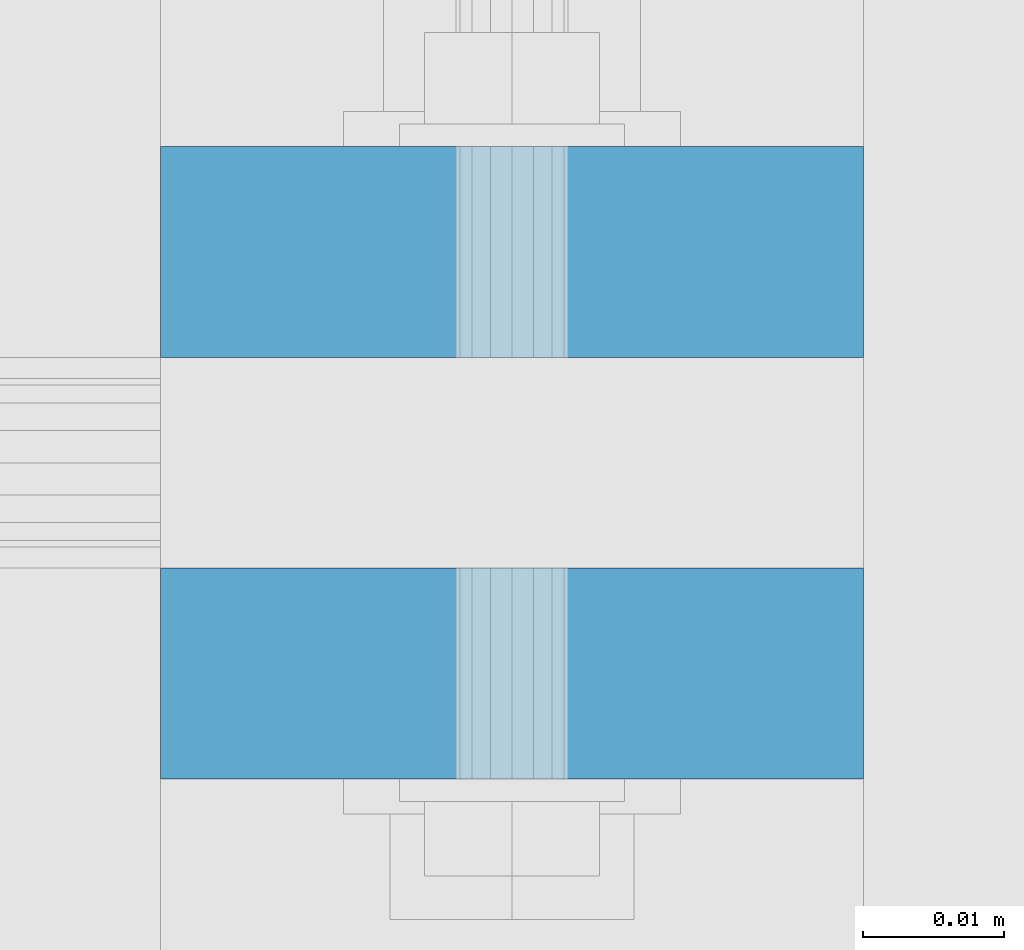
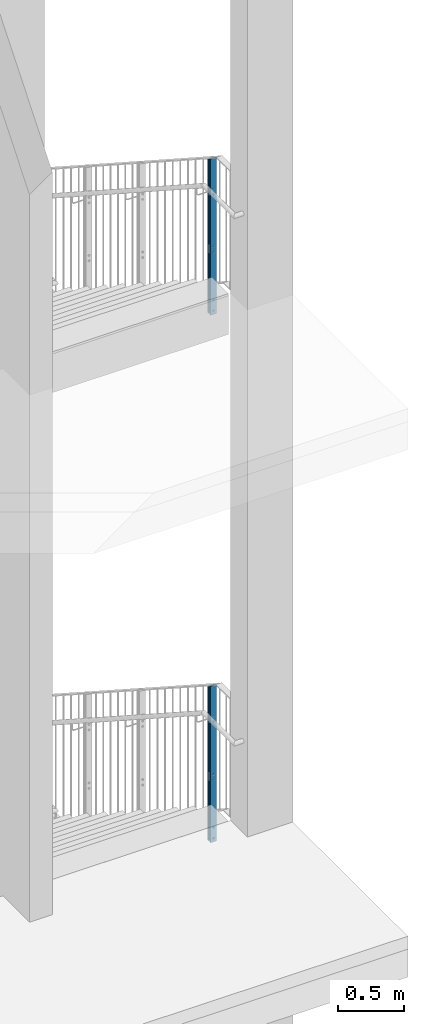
# One storey, part 27 of 296: 4 columns, 24 openings.
"""IFC2X3 building model written with IfcOpenShell, lengths in millimetres."""

import ifcopenshell
import ifcopenshell.guid

model = None  # the IFC model being written
_history = None  # IfcOwnerHistory: only IFC2X3 demands one
_inside = {}  # id of a spatial element -> (the spatial element, [elements in it])
_under = {}  # id of a project, library or spatial element -> (it, [spatial elements below it])
_declared = {}  # id of a project -> (the project, [libraries it declares])
_typed = {}  # id of a type object -> (the type object, [elements of that type])
_made_of = {}  # id of a material, layer set ... -> (it, [elements and type objects made of it])


def new_model(schema):
    """Start an empty IFC model of exactly this schema.

    Asked for "IFC4X3", IfcOpenShell would pick the latest addendum, in which some entities
    have other attributes; the version numbers below select the first issue.
    IFC2X3 requires an IfcOwnerHistory on every rooted entity: one is made here for all.
    """
    global model, _history
    if schema == "IFC4X3":
        model = ifcopenshell.file(schema_version=(4, 3, 0, 0))
    else:
        model = ifcopenshell.file(schema=schema)
    _inside.clear()
    _under.clear()
    _declared.clear()
    _typed.clear()
    _made_of.clear()
    _history = None
    if model.schema == "IFC2X3":
        org = make("IfcOrganization", Name="unknown")
        user = make(
            "IfcPersonAndOrganization",
            ThePerson=make("IfcPerson", FamilyName="unknown"),
            TheOrganization=org,
        )
        app = make(
            "IfcApplication",
            ApplicationDeveloper=org,
            Version="unknown",
            ApplicationFullName="unknown",
            ApplicationIdentifier="unknown",
        )
        _history = make(
            "IfcOwnerHistory",
            OwningUser=user,
            OwningApplication=app,
            ChangeAction="ADDED",
            CreationDate=0,
        )
    return model


def make(cls, **values):
    """One entity of the class cls with the attributes given. An attribute that is None is left unset."""
    return model.create_entity(
        cls, **{name: value for name, value in values.items() if value is not None}
    )


def entity(cls, *values):
    """Any entity or typed value of the class cls, its attributes in the order of the schema. None: left unset."""
    e = model.create_entity(cls)
    for i, value in enumerate(values):
        if value is not None:
            e[i] = value
    return e


def rooted(cls, **values):
    """An entity with a GlobalId (a new one), such as an element, a storey or a relation."""
    return make(cls, GlobalId=ifcopenshell.guid.new(), OwnerHistory=_history, **values)


def si_unit(unit_type, name, prefix=None):
    """IfcSIUnit, for example si_unit("LENGTHUNIT", "METRE", prefix="MILLI")."""
    return make("IfcSIUnit", UnitType=unit_type, Prefix=prefix, Name=name)


def converted_unit(unit_type, name, factor, base, dimensions=None, offset=None):
    """IfcConversionBasedUnit, such as the inch: factor (a typed value) times the base unit."""
    return make(
        "IfcConversionBasedUnit"
        if offset is None
        else "IfcConversionBasedUnitWithOffset",
        ConversionOffset=offset,
        Dimensions=None
        if dimensions is None
        else entity("IfcDimensionalExponents", *dimensions),
        UnitType=unit_type,
        Name=name,
        ConversionFactor=make(
            "IfcMeasureWithUnit", ValueComponent=factor, UnitComponent=base
        ),
    )


def assignment(units):
    """IfcUnitAssignment: the units of a project."""
    return None if units is None else make("IfcUnitAssignment", Units=units)


def point(xyz):
    """IfcCartesianPoint."""
    return None if xyz is None else make("IfcCartesianPoint", Coordinates=xyz)


def direction(xyz):
    """IfcDirection."""
    return None if xyz is None else make("IfcDirection", DirectionRatios=xyz)


def frame(location, z_axis=None, x_axis=None):
    """IfcAxis2Placement3D, a coordinate frame: its origin and axes. An axis left out is left unset."""
    return make(
        "IfcAxis2Placement3D",
        Location=point(location),
        Axis=direction(z_axis),
        RefDirection=direction(x_axis),
    )


def frame_2d(location, x_axis=None):
    """IfcAxis2Placement2D, a coordinate frame in the plane: its origin and x axis."""
    return make(
        "IfcAxis2Placement2D", Location=point(location), RefDirection=direction(x_axis)
    )


def origin():
    """The frame at (0, 0, 0) with its axes left unset."""
    return frame((0.0, 0.0, 0.0))


def origin_with_axes():
    """The frame at (0, 0, 0) with the z axis (0, 0, 1) and the x axis (1, 0, 0) written out."""
    return frame((0.0, 0.0, 0.0), z_axis=(0.0, 0.0, 1.0), x_axis=(1.0, 0.0, 0.0))


def origin_2d():
    """The frame at (0, 0) in the plane with its x axis left unset."""
    return frame_2d((0.0, 0.0))


def place(relative_to, where):
    """IfcLocalPlacement: puts the frame where relative to a parent placement (None: the world)."""
    return make(
        "IfcLocalPlacement", PlacementRelTo=relative_to, RelativePlacement=where
    )


def context(
    kind, dimensions, precision=None, world=None, true_north=None, identifier=None
):
    """IfcGeometricRepresentationContext, for example the 3D "Model" context."""
    return make(
        "IfcGeometricRepresentationContext",
        ContextIdentifier=identifier,
        ContextType=kind,
        CoordinateSpaceDimension=dimensions,
        Precision=precision,
        WorldCoordinateSystem=world,
        TrueNorth=true_north,
    )


def project(units=None, contexts=None):
    """IfcProject with its units and contexts."""
    return rooted(
        "IfcProject",
        Name="project",
        RepresentationContexts=contexts,
        UnitsInContext=assignment(units),
    )


def spatial(cls, under=None, at=None, **own):
    """A site, building, storey or space (cls), placed at a placement, below another one or the project."""
    s = rooted(cls, ObjectPlacement=at, **own)
    if under is not None:
        _under.setdefault(under.id(), (under, []))[1].append(s)
    return s


def profile(cls, at=None, kind="AREA", **sizes):
    """A parametric profile (cls). Its sizes go by their IFC names, for example OverallWidth=200.0."""
    return make(cls, ProfileType=kind, Position=at, **sizes)


def rectangle(**sizes):
    """IfcRectangleProfileDef."""
    return profile("IfcRectangleProfileDef", **sizes)


def circle(**sizes):
    """IfcCircleProfileDef."""
    return profile("IfcCircleProfileDef", **sizes)


def extrude(swept, where, along, depth):
    """IfcExtrudedAreaSolid: the profile swept, set in the frame where, extruded along a direction by depth."""
    return make(
        "IfcExtrudedAreaSolid",
        SweptArea=swept,
        Position=where,
        ExtrudedDirection=direction(along),
        Depth=depth,
    )


def clip(a, b, op="DIFFERENCE"):
    """IfcBooleanClippingResult: the solid a cut by the half space b."""
    return make(
        "IfcBooleanClippingResult", Operator=op, FirstOperand=a, SecondOperand=b
    )


def halfspace(plane, agree):
    """IfcHalfSpaceSolid: all space on one side of the plane z = 0 of the frame plane."""
    return make(
        "IfcHalfSpaceSolid",
        BaseSurface=make("IfcPlane", Position=plane),
        AgreementFlag=agree,
    )


def shape(context_of_items, identifier, shape_type, items):
    """IfcShapeRepresentation: the items that make up one representation, for example the "Body"."""
    return make(
        "IfcShapeRepresentation",
        ContextOfItems=context_of_items,
        RepresentationIdentifier=identifier,
        RepresentationType=shape_type,
        Items=items,
    )


def material(Name=None, Category=None):
    """IfcMaterial."""
    return make("IfcMaterial", Name=Name, Category=Category)


def made_of(thing, what):
    """Note that an element or type object is made of a material, layer set ...; save() writes the relation."""
    if what is not None:
        _made_of.setdefault(what.id(), (what, []))[1].append(thing)
    return thing


def element(
    cls,
    number,
    at=None,
    inside=None,
    cuts=None,
    type_object=None,
    material=None,
    context=None,
    identifier="Body",
    shape_type=None,
    held_by="IfcProductDefinitionShape",
    body=None,
    shapes=None,
    **own,
):
    """One element of the class cls, such as IfcWall. Its Tag is "e" and its number.

    at: its placement. inside: the storey or other place that contains it. cuts: it is an
    opening in that element (IfcRelVoidsElement). A single representation is given by context,
    identifier, shape_type and body (its items); several are given by shapes. held_by: the class
    of the entity that holds the representations. save() writes the other relations.
    """
    e = rooted(cls, Tag="e%d" % number, ObjectPlacement=at, **own)
    if body is not None:
        shapes = [shape(context, identifier, shape_type, body)]
    if shapes is not None:
        e.Representation = make(held_by, Representations=shapes)
    if inside is not None:
        _inside.setdefault(inside.id(), (inside, []))[1].append(e)
    if cuts is not None:
        rooted(
            "IfcRelVoidsElement", RelatingBuildingElement=cuts, RelatedOpeningElement=e
        )
    if type_object is not None:
        _typed.setdefault(type_object.id(), (type_object, []))[1].append(e)
    return made_of(e, material)


def aggregate(whole, parts):
    """IfcRelAggregates: a whole, such as a stair, and the parts it consists of."""
    return rooted("IfcRelAggregates", RelatingObject=whole, RelatedObjects=parts)


def save(model, path):
    """Write the relations noted so far, then the file.

    IfcRelAggregates (storeys below a building ...), IfcRelContainedInSpatialStructure (elements
    in a storey), IfcRelDefinesByType, IfcRelAssociatesMaterial and IfcRelDeclares: one each for
    every whole, place, type object, material and project.
    """
    for whole, parts in _under.values():
        aggregate(whole, parts)
    for where, things in _inside.values():
        rooted(
            "IfcRelContainedInSpatialStructure",
            RelatedElements=things,
            RelatingStructure=where,
        )
    for kind, things in _typed.values():
        rooted("IfcRelDefinesByType", RelatedObjects=things, RelatingType=kind)
    for what, things in _made_of.values():
        rooted("IfcRelAssociatesMaterial", RelatedObjects=things, RelatingMaterial=what)
    for by, libraries in _declared.values():
        rooted("IfcRelDeclares", RelatingContext=by, RelatedDefinitions=libraries)
    model.write(path)


model = new_model("IFC2X3")

# Units and contexts
model_context = context("Model", 3, precision=1e-09, world=origin_with_axes())
ifc_project = project(units=[si_unit("LENGTHUNIT", "METRE", prefix="MILLI"), si_unit("AREAUNIT", "SQUARE_METRE"), si_unit("VOLUMEUNIT", "CUBIC_METRE"), converted_unit("PLANEANGLEUNIT", "DEGREE", entity("IfcPlaneAngleMeasure", 0.01745329), si_unit("PLANEANGLEUNIT", "RADIAN"), dimensions=[0, 0, 0, 0, 0, 0, 0])], contexts=[model_context])

# Site, building, storey
site_placement = place(None, origin_with_axes())
site = spatial("IfcSite", under=ifc_project, at=site_placement, Name="TZD-S?d | Treppenhausgel?nder", CompositionType="ELEMENT")
building_placement = place(site_placement, origin_with_axes())
building = spatial("IfcBuilding", under=site, at=building_placement, Name="Struktur 1", CompositionType="ELEMENT")
storey_placement = place(building_placement, origin_with_axes())
storey = spatial("IfcBuildingStorey", under=building, at=storey_placement, Name="Default Storey", CompositionType="ELEMENT", Elevation=0.0)

# Column, openings
ifc_material = material(Name="S235JR")
column_1_placement = place(None, frame((5894.999, -3400.0, 9380.001), z_axis=(0.0, 0.0, 1.0), x_axis=(0.0, -1.0, 0.0)))
column_1 = element("IfcColumn", 1, at=column_1_placement, inside=storey, material=ifc_material, Name="-", ObjectType="-", context=model_context, shape_type="Clipping", body=[
    clip(extrude(rectangle(XDim=15.0, YDim=50.0, at=origin_2d()), origin(), (0.0, 0.0, 1.0), 1458.22194115), halfspace(frame((-7326.250683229, -5894.999, -3317.81068189), z_axis=(0.543608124, 0.0, -0.839339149), x_axis=(0.0, 1.0, 0.0)), True)),
])
opening_1_placement = place(column_1_placement, frame((-8.0, 5.001, 624.999999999), z_axis=(-1.0, 0.0, 0.0), x_axis=(0.0, -1.0, 0.0)))
element("IfcOpeningElement", 2, at=opening_1_placement, cuts=column_1, ObjectType="Opening", context=model_context, shape_type="SweptSolid", body=[
    extrude(circle(Radius=5.001, at=frame_2d((5.001, 0.0), x_axis=(1.0, 0.0))), origin(), (0.0, 0.0, -1.0), 16.0),
])
opening_2_placement = place(column_1_placement, frame((-8.0, 5.001, 574.999999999), z_axis=(-1.0, 0.0, 0.0), x_axis=(0.0, -1.0, 0.0)))
element("IfcOpeningElement", 3, at=opening_2_placement, cuts=column_1, ObjectType="Opening", context=model_context, shape_type="SweptSolid", body=[
    extrude(circle(Radius=5.001, at=frame_2d((5.001, 0.0), x_axis=(1.0, 0.0))), origin(), (0.0, 0.0, -1.0), 16.0),
])
opening_3_placement = place(column_1_placement, frame((-8.0, 7.001, 135.0), z_axis=(-1.0, 0.0, 0.0), x_axis=(0.0, -1.0, 0.0)))
element("IfcOpeningElement", 4, at=opening_3_placement, cuts=column_1, ObjectType="Opening", context=model_context, shape_type="SweptSolid", body=[
    extrude(circle(Radius=7.001, at=frame_2d((7.001, 0.0), x_axis=(1.0, 0.0))), origin(), (0.0, 0.0, -1.0), 16.0),
])
opening_4_placement = place(column_1_placement, frame((-8.0, 7.001, 35.0), z_axis=(-1.0, 0.0, 0.0), x_axis=(0.0, -1.0, 0.0)))
element("IfcOpeningElement", 5, at=opening_4_placement, cuts=column_1, ObjectType="Opening", context=model_context, shape_type="SweptSolid", body=[
    extrude(circle(Radius=7.001, at=frame_2d((7.001, 0.0), x_axis=(1.0, 0.0))), origin(), (0.0, 0.0, -1.0), 16.0),
])
opening_5_placement = place(column_1_placement, frame((-8.0, 5.001, 1164.336971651), z_axis=(-1.0, 0.0, 0.0), x_axis=(0.0, -1.0, 0.0)))
element("IfcOpeningElement", 6, at=opening_5_placement, cuts=column_1, ObjectType="Opening", context=model_context, shape_type="SweptSolid", body=[
    extrude(circle(Radius=5.001, at=frame_2d((5.001, 0.0), x_axis=(1.0, 0.0))), origin(), (0.0, 0.0, -1.0), 16.0),
])
opening_6_placement = place(column_1_placement, frame((-8.0, 5.001, 1114.336971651), z_axis=(-1.0, 0.0, 0.0), x_axis=(0.0, -1.0, 0.0)))
element("IfcOpeningElement", 7, at=opening_6_placement, cuts=column_1, ObjectType="Opening", context=model_context, shape_type="SweptSolid", body=[
    extrude(circle(Radius=5.001, at=frame_2d((5.001, 0.0), x_axis=(1.0, 0.0))), origin(), (0.0, 0.0, -1.0), 16.0),
])

column_2_placement = place(None, frame((5894.999, -3430.0, 9380.001), z_axis=(0.0, 0.0, -1.0), x_axis=(0.0, 1.0, 0.0)))
column_2 = element("IfcColumn", 8, at=column_2_placement, inside=storey, material=ifc_material, Name="-", ObjectType="-", context=model_context, shape_type="Clipping", body=[
    clip(extrude(rectangle(XDim=15.0, YDim=50.0, at=origin_2d()), origin(), (0.0, 0.0, -1.0), 1477.651803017), halfspace(frame((7356.250683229, -5894.999, 3317.810681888), z_axis=(-0.543608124, 0.0, 0.839339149), x_axis=(0.0, 1.0, 0.0)), True)),
])
opening_7_placement = place(column_2_placement, frame((8.0, 5.001, -1164.336971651), z_axis=(1.0, 0.0, 0.0), x_axis=(0.0, 1.0, 0.0)))
element("IfcOpeningElement", 9, at=opening_7_placement, cuts=column_2, ObjectType="Opening", context=model_context, shape_type="SweptSolid", body=[
    extrude(circle(Radius=5.001, at=frame_2d((-5.001, 0.0), x_axis=(1.0, 0.0))), origin(), (0.0, 0.0, -1.0), 16.0),
])
opening_8_placement = place(column_2_placement, frame((8.0, 5.001, -1114.336971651), z_axis=(1.0, 0.0, 0.0), x_axis=(0.0, 1.0, 0.0)))
element("IfcOpeningElement", 10, at=opening_8_placement, cuts=column_2, ObjectType="Opening", context=model_context, shape_type="SweptSolid", body=[
    extrude(circle(Radius=5.001, at=frame_2d((-5.001, 0.0), x_axis=(1.0, 0.0))), origin(), (0.0, 0.0, -1.0), 16.0),
])
opening_9_placement = place(column_2_placement, frame((8.0, 5.001, -624.999999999), z_axis=(1.0, 0.0, 0.0), x_axis=(0.0, 1.0, 0.0)))
element("IfcOpeningElement", 11, at=opening_9_placement, cuts=column_2, ObjectType="Opening", context=model_context, shape_type="SweptSolid", body=[
    extrude(circle(Radius=5.001, at=frame_2d((-5.001, 0.0), x_axis=(1.0, 0.0))), origin(), (0.0, 0.0, -1.0), 16.0),
])
opening_10_placement = place(column_2_placement, frame((8.0, 5.001, -574.999999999), z_axis=(1.0, 0.0, 0.0), x_axis=(0.0, 1.0, 0.0)))
element("IfcOpeningElement", 12, at=opening_10_placement, cuts=column_2, ObjectType="Opening", context=model_context, shape_type="SweptSolid", body=[
    extrude(circle(Radius=5.001, at=frame_2d((-5.001, 0.0), x_axis=(1.0, 0.0))), origin(), (0.0, 0.0, -1.0), 16.0),
])
opening_11_placement = place(column_2_placement, frame((8.0, 7.001, -135.0), z_axis=(1.0, 0.0, 0.0), x_axis=(0.0, 1.0, 0.0)))
element("IfcOpeningElement", 13, at=opening_11_placement, cuts=column_2, ObjectType="Opening", context=model_context, shape_type="SweptSolid", body=[
    extrude(circle(Radius=7.001, at=frame_2d((-7.001, 0.0), x_axis=(1.0, 0.0))), origin(), (0.0, 0.0, -1.0), 16.0),
])
opening_12_placement = place(column_2_placement, frame((8.0, 7.001, -35.0), z_axis=(1.0, 0.0, 0.0), x_axis=(0.0, 1.0, 0.0)))
element("IfcOpeningElement", 14, at=opening_12_placement, cuts=column_2, ObjectType="Opening", context=model_context, shape_type="SweptSolid", body=[
    extrude(circle(Radius=7.001, at=frame_2d((-7.001, 0.0), x_axis=(1.0, 0.0))), origin(), (0.0, 0.0, -1.0), 16.0),
])

column_3_placement = place(None, frame((5894.999, -3400.0, 4480.001), z_axis=(0.0, 0.0, 1.0), x_axis=(0.0, -1.0, 0.0)))
column_3 = element("IfcColumn", 15, at=column_3_placement, inside=storey, material=ifc_material, Name="-", ObjectType="-", context=model_context, shape_type="Clipping", body=[
    clip(extrude(rectangle(XDim=15.0, YDim=50.0, at=origin_2d()), origin(), (0.0, 0.0, 1.0), 1461.582212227), halfspace(frame((-5092.585742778, -5894.999, -1862.192152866), z_axis=(0.542959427, 0.0, -0.83975893), x_axis=(0.0, 1.0, 0.0)), True)),
])
opening_13_placement = place(column_3_placement, frame((-8.0, 7.001, 135.0), z_axis=(-1.0, 0.0, 0.0), x_axis=(0.0, -1.0, 0.0)))
element("IfcOpeningElement", 16, at=opening_13_placement, cuts=column_3, ObjectType="Opening", context=model_context, shape_type="SweptSolid", body=[
    extrude(circle(Radius=7.001, at=frame_2d((7.001, 0.0), x_axis=(1.0, 0.0))), origin(), (0.0, 0.0, -1.0), 16.0),
])
opening_14_placement = place(column_3_placement, frame((-8.0, 7.001, 35.0), z_axis=(-1.0, 0.0, 0.0), x_axis=(0.0, -1.0, 0.0)))
element("IfcOpeningElement", 17, at=opening_14_placement, cuts=column_3, ObjectType="Opening", context=model_context, shape_type="SweptSolid", body=[
    extrude(circle(Radius=7.001, at=frame_2d((7.001, 0.0), x_axis=(1.0, 0.0))), origin(), (0.0, 0.0, -1.0), 16.0),
])
opening_15_placement = place(column_3_placement, frame((-8.0, 5.001, 624.999999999), z_axis=(-1.0, 0.0, 0.0), x_axis=(0.0, -1.0, 0.0)))
element("IfcOpeningElement", 18, at=opening_15_placement, cuts=column_3, ObjectType="Opening", context=model_context, shape_type="SweptSolid", body=[
    extrude(circle(Radius=5.001, at=frame_2d((5.001, 0.0), x_axis=(1.0, 0.0))), origin(), (0.0, 0.0, -1.0), 16.0),
])
opening_16_placement = place(column_3_placement, frame((-8.0, 5.001, 574.999999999), z_axis=(-1.0, 0.0, 0.0), x_axis=(0.0, -1.0, 0.0)))
element("IfcOpeningElement", 19, at=opening_16_placement, cuts=column_3, ObjectType="Opening", context=model_context, shape_type="SweptSolid", body=[
    extrude(circle(Radius=5.001, at=frame_2d((5.001, 0.0), x_axis=(1.0, 0.0))), origin(), (0.0, 0.0, -1.0), 16.0),
])
opening_17_placement = place(column_3_placement, frame((-8.0, 5.001, 1167.708729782), z_axis=(-1.0, 0.0, 0.0), x_axis=(0.0, -1.0, 0.0)))
element("IfcOpeningElement", 20, at=opening_17_placement, cuts=column_3, ObjectType="Opening", context=model_context, shape_type="SweptSolid", body=[
    extrude(circle(Radius=5.001, at=frame_2d((5.001, 0.0), x_axis=(1.0, 0.0))), origin(), (0.0, 0.0, -1.0), 16.0),
])
opening_18_placement = place(column_3_placement, frame((-8.0, 5.001, 1117.708729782), z_axis=(-1.0, 0.0, 0.0), x_axis=(0.0, -1.0, 0.0)))
element("IfcOpeningElement", 21, at=opening_18_placement, cuts=column_3, ObjectType="Opening", context=model_context, shape_type="SweptSolid", body=[
    extrude(circle(Radius=5.001, at=frame_2d((5.001, 0.0), x_axis=(1.0, 0.0))), origin(), (0.0, 0.0, -1.0), 16.0),
])

column_4_placement = place(None, frame((5894.999, -3430.0, 4480.001), z_axis=(0.0, 0.0, -1.0), x_axis=(0.0, 1.0, 0.0)))
column_4 = element("IfcColumn", 22, at=column_4_placement, inside=storey, material=ifc_material, Name="-", ObjectType="-", context=model_context, shape_type="Clipping", body=[
    clip(extrude(rectangle(XDim=15.0, YDim=50.0, at=origin_2d()), origin(), (0.0, 0.0, -1.0), 1480.979187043), halfspace(frame((5122.585742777, -5894.999, 1862.192152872), z_axis=(-0.542959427, 0.0, 0.83975893), x_axis=(0.0, 1.0, 0.0)), True)),
])
opening_19_placement = place(column_4_placement, frame((8.0, 5.001, -624.999999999), z_axis=(1.0, 0.0, 0.0), x_axis=(0.0, 1.0, 0.0)))
element("IfcOpeningElement", 23, at=opening_19_placement, cuts=column_4, ObjectType="Opening", context=model_context, shape_type="SweptSolid", body=[
    extrude(circle(Radius=5.001, at=frame_2d((-5.001, 0.0), x_axis=(1.0, 0.0))), origin(), (0.0, 0.0, -1.0), 16.0),
])
opening_20_placement = place(column_4_placement, frame((8.0, 5.001, -574.999999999), z_axis=(1.0, 0.0, 0.0), x_axis=(0.0, 1.0, 0.0)))
element("IfcOpeningElement", 24, at=opening_20_placement, cuts=column_4, ObjectType="Opening", context=model_context, shape_type="SweptSolid", body=[
    extrude(circle(Radius=5.001, at=frame_2d((-5.001, 0.0), x_axis=(1.0, 0.0))), origin(), (0.0, 0.0, -1.0), 16.0),
])
opening_21_placement = place(column_4_placement, frame((8.0, 5.001, -1167.708729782), z_axis=(1.0, 0.0, 0.0), x_axis=(0.0, 1.0, 0.0)))
element("IfcOpeningElement", 25, at=opening_21_placement, cuts=column_4, ObjectType="Opening", context=model_context, shape_type="SweptSolid", body=[
    extrude(circle(Radius=5.001, at=frame_2d((-5.001, 0.0), x_axis=(1.0, 0.0))), origin(), (0.0, 0.0, -1.0), 16.0),
])
opening_22_placement = place(column_4_placement, frame((8.0, 5.001, -1117.708729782), z_axis=(1.0, 0.0, 0.0), x_axis=(0.0, 1.0, 0.0)))
element("IfcOpeningElement", 26, at=opening_22_placement, cuts=column_4, ObjectType="Opening", context=model_context, shape_type="SweptSolid", body=[
    extrude(circle(Radius=5.001, at=frame_2d((-5.001, 0.0), x_axis=(1.0, 0.0))), origin(), (0.0, 0.0, -1.0), 16.0),
])
opening_23_placement = place(column_4_placement, frame((8.0, 7.001, -135.0), z_axis=(1.0, 0.0, 0.0), x_axis=(0.0, 1.0, 0.0)))
element("IfcOpeningElement", 27, at=opening_23_placement, cuts=column_4, ObjectType="Opening", context=model_context, shape_type="SweptSolid", body=[
    extrude(circle(Radius=7.001, at=frame_2d((-7.001, 0.0), x_axis=(1.0, 0.0))), origin(), (0.0, 0.0, -1.0), 16.0),
])
opening_24_placement = place(column_4_placement, frame((8.0, 7.001, -35.0), z_axis=(1.0, 0.0, 0.0), x_axis=(0.0, 1.0, 0.0)))
element("IfcOpeningElement", 28, at=opening_24_placement, cuts=column_4, ObjectType="Opening", context=model_context, shape_type="SweptSolid", body=[
    extrude(circle(Radius=7.001, at=frame_2d((-7.001, 0.0), x_axis=(1.0, 0.0))), origin(), (0.0, 0.0, -1.0), 16.0),
])

save(model, "model.ifc")
